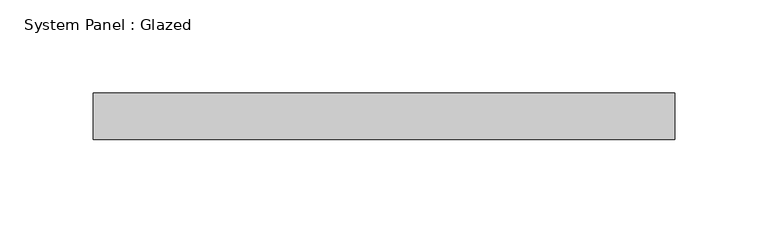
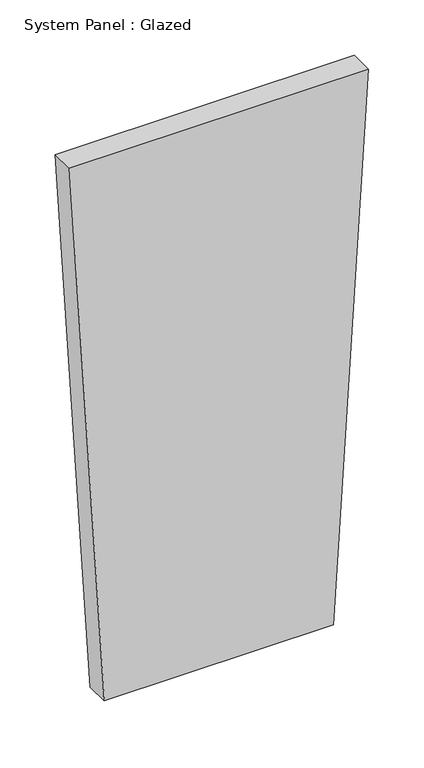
"""IFC4 building model written with IfcOpenShell, lengths in millimetres: plate geometry, System Panel : Glazed."""

from ifc_helpers import new_model, si_unit, frame, origin, place, context, project, spatial, polyline, outline, extrude, source, transform, mapped, element, save


def system_panel_glazed_dcb776d8(model_context):
    return source(origin(), model_context, "Body", "SweptSolid", [
        extrude(outline(polyline([(0.0, -119.420044), (0.0, 119.420044), (598.8990643, 155.7506196), (598.8990643, -155.7506196), (0.0, -119.420044)])), frame((0.0, 24.5, 0.0), z_axis=(0.0, 1.0, 0.0), x_axis=(0.0, 0.0, 1.0)), (0.0, 0.0, 1.0), 25.0),
    ])


if __name__ == "__main__":
    model = new_model("IFC4")
    model_context = context("Model", 3, world=origin())
    ifc_project = project(units=[si_unit("LENGTHUNIT", "METRE", prefix="MILLI")], contexts=[model_context])
    site = spatial("IfcSite", under=ifc_project)
    building = spatial("IfcBuilding", under=site)
    placement = place(None, origin())
    system_panel_glazed_shape = system_panel_glazed_dcb776d8(model_context)
    element("IfcPlate", 1, ObjectType="System Panel : Glazed", at=placement, inside=building, context=model_context, shape_type="MappedRepresentation", body=[
        mapped(system_panel_glazed_shape, transform((0.0, 0.0, 0.0), x_axis=(1.0, 0.0, 0.0), y_axis=(0.0, 1.0, 0.0), z_axis=(0.0, 0.0, 1.0))),
    ])
    save(model, "model.ifc")
